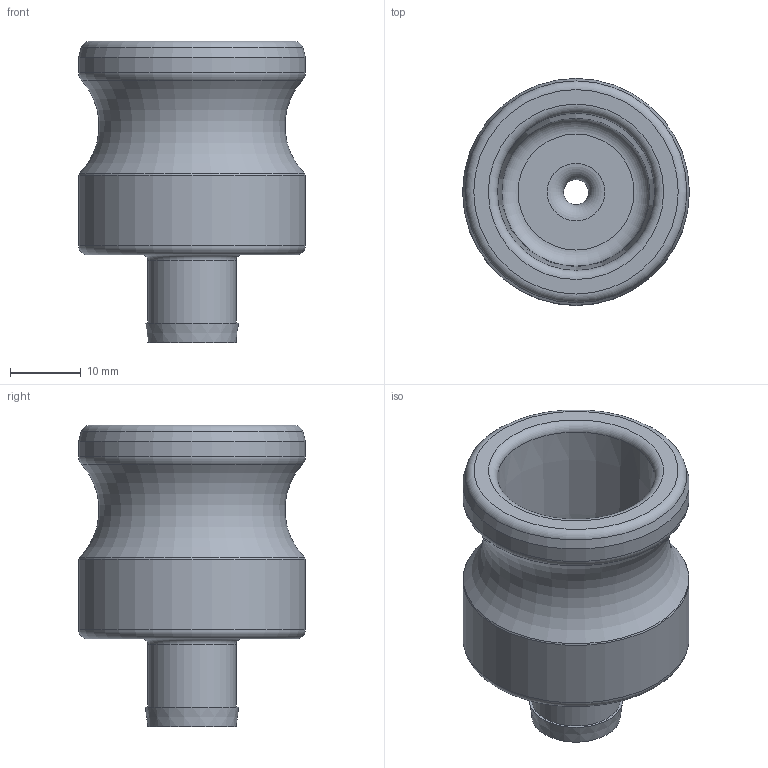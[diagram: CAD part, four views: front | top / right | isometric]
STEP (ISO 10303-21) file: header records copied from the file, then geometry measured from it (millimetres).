
FILE_DESCRIPTION(/* description */ ('Alibre Inc.'),/* implementation_level */ '2;1');
FILE_NAME(/* name */ 'export0',/* time_stamp */ '2017-02-12T13:13:10-05:00',/* author */ (''),/* organization */ (''),/* preprocessor_version */ 'ST-DEVELOPER v14',/* originating_system */ 'Alibre',/* authorisation */ '');
FILE_SCHEMA (('CONFIG_CONTROL_DESIGN'));
Length unit declared in the file: centimetre
Products named in the file (1): ID_1
Bounding box: 32.11 x 32.11 x 42.67 mm (x, y, z)
Volume: 15129.8 mm3; surface area: 6527.4 mm2
Topology: 1 solids, 1 shells, 21 faces, 37 edges, 21 vertices
Faces by surface type: torus 8, plane 5, cylinder 4, cone 4
Full cylindrical faces by diameter (mm): 3.572 x1, 12.497 x1, 32.106 x2
Entity records: 500 total; most frequent: DIRECTION 71, CARTESIAN_POINT 63, ORIENTED_EDGE 42, EDGE_LOOP 42, FACE_BOUND 42, AXIS2_PLACEMENT_3D 42, VERTEX_POINT 21, CIRCLE 21
